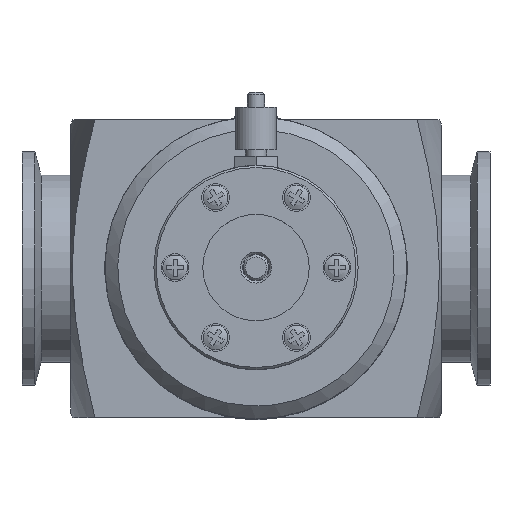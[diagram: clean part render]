
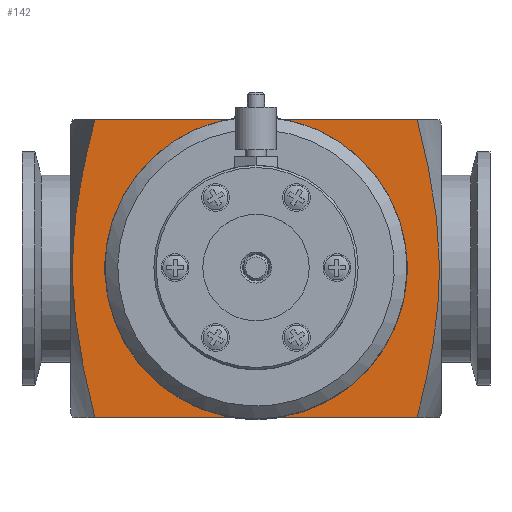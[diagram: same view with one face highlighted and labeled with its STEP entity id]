
A CAD part, top view. The second image highlights one B-rep face of the part: STEP entity #142.
In plain terms, the highlighted planar face has unit normal (0, 0, 1).
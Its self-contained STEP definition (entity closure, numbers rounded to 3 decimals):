
#142 = ADVANCED_FACE( '', ( #267, #268 ), #269, .T. );
#267 = FACE_BOUND( '', #446, .T. );
#268 = FACE_OUTER_BOUND( '', #447, .T. );
#269 = PLANE( '', #448 );
#446 = EDGE_LOOP( '', ( #748 ) );
#447 = EDGE_LOOP( '', ( #749, #750, #751, #752 ) );
#448 = AXIS2_PLACEMENT_3D( '', #753, #754, #755 );
#748 = ORIENTED_EDGE( '', *, *, #1330, .F. );
#749 = ORIENTED_EDGE( '', *, *, #1327, .F. );
#750 = ORIENTED_EDGE( '', *, *, #1331, .T. );
#751 = ORIENTED_EDGE( '', *, *, #1332, .T. );
#752 = ORIENTED_EDGE( '', *, *, #1333, .T. );
#753 = CARTESIAN_POINT( '', ( 43.5, -35., 35. ) );
#754 = DIRECTION( '', ( 0., 0., 1. ) );
#755 = DIRECTION( '', ( 1., 0., 0. ) );
#1327 = EDGE_CURVE( '', #1789, #1791, #1792, .T. );
#1330 = EDGE_CURVE( '', #1795, #1795, #1796, .T. );
#1331 = EDGE_CURVE( '', #1789, #1797, #1798, .T. );
#1332 = EDGE_CURVE( '', #1797, #1799, #1800, .T. );
#1333 = EDGE_CURVE( '', #1799, #1791, #1801, .F. );
#1789 = VERTEX_POINT( '', #2661 );
#1791 = VERTEX_POINT( '', #2678 );
#1792 = LINE( '', #2679, #2680 );
#1795 = VERTEX_POINT( '', #2698 );
#1796 = CIRCLE( '', #2699, 32.832 );
#1797 = VERTEX_POINT( '', #2700 );
#1798 = B_SPLINE_CURVE_WITH_KNOTS( '', 3, ( #2701, #2702, #2703, #2704, #2705, #2706, #2707, #2708, #2709, #2710, #2711, #2712, #2713, #2714, #2715, #2716, #2717, #2718, #2719, #2720 ), .UNSPECIFIED., .F., .F., ( 4, 2, 2, 2, 2, 2, 2, 2, 2, 4 ), ( 0.036, 0.045, 0.054, 0.063, 0.072, 0.081, 0.085, 0.09, 0.099, 0.108 ), .UNSPECIFIED. );
#1799 = VERTEX_POINT( '', #2721 );
#1800 = LINE( '', #2722, #2723 );
#1801 = B_SPLINE_CURVE_WITH_KNOTS( '', 3, ( #2724, #2725, #2726, #2727, #2728, #2729, #2730, #2731, #2732, #2733, #2734, #2735, #2736, #2737, #2738, #2739, #2740, #2741, #2742, #2743 ), .UNSPECIFIED., .F., .F., ( 4, 2, 2, 2, 2, 2, 2, 2, 2, 4 ), ( 0.036, 0.045, 0.054, 0.063, 0.072, 0.081, 0.085, 0.09, 0.099, 0.108 ), .UNSPECIFIED. );
#2661 = CARTESIAN_POINT( '', ( 37.859, -35., 35. ) );
#2678 = CARTESIAN_POINT( '', ( -37.859, -35., 35. ) );
#2679 = CARTESIAN_POINT( '', ( 43.5, -35., 35. ) );
#2680 = VECTOR( '', #3113, 1000. );
#2698 = CARTESIAN_POINT( '', ( 32.832, 0., 35. ) );
#2699 = AXIS2_PLACEMENT_3D( '', #3114, #3115, #3116 );
#2700 = CARTESIAN_POINT( '', ( 37.859, 35., 35. ) );
#2701 = CARTESIAN_POINT( '', ( 37.859, -35., 35. ) );
#2702 = CARTESIAN_POINT( '', ( 38.6, -32.124, 35. ) );
#2703 = CARTESIAN_POINT( '', ( 39.298, -29.235, 35. ) );
#2704 = CARTESIAN_POINT( '', ( 40.57, -23.423, 35. ) );
#2705 = CARTESIAN_POINT( '', ( 41.14, -20.513, 35. ) );
#2706 = CARTESIAN_POINT( '', ( 42.092, -14.688, 35. ) );
#2707 = CARTESIAN_POINT( '', ( 42.474, -11.771, 35. ) );
#2708 = CARTESIAN_POINT( '', ( 42.996, -5.928, 35. ) );
#2709 = CARTESIAN_POINT( '', ( 43.134, -3.002, 35. ) );
#2710 = CARTESIAN_POINT( '', ( 43.138, 2.862, 35. ) );
#2711 = CARTESIAN_POINT( '', ( 43.004, 5.799, 35. ) );
#2712 = CARTESIAN_POINT( '', ( 42.615, 10.213, 35. ) );
#2713 = CARTESIAN_POINT( '', ( 42.454, 11.685, 35. ) );
#2714 = CARTESIAN_POINT( '', ( 42.077, 14.632, 35. ) );
#2715 = CARTESIAN_POINT( '', ( 41.86, 16.108, 35. ) );
#2716 = CARTESIAN_POINT( '', ( 41.137, 20.53, 35. ) );
#2717 = CARTESIAN_POINT( '', ( 40.564, 23.45, 35. ) );
#2718 = CARTESIAN_POINT( '', ( 39.294, 29.251, 35. ) );
#2719 = CARTESIAN_POINT( '', ( 38.598, 32.132, 35. ) );
#2720 = CARTESIAN_POINT( '', ( 37.859, 35., 35. ) );
#2721 = CARTESIAN_POINT( '', ( -37.859, 35., 35. ) );
#2722 = CARTESIAN_POINT( '', ( 43.5, 35., 35. ) );
#2723 = VECTOR( '', #3117, 1000. );
#2724 = CARTESIAN_POINT( '', ( -37.859, -35., 35. ) );
#2725 = CARTESIAN_POINT( '', ( -38.6, -32.124, 35. ) );
#2726 = CARTESIAN_POINT( '', ( -39.298, -29.235, 35. ) );
#2727 = CARTESIAN_POINT( '', ( -40.57, -23.423, 35. ) );
#2728 = CARTESIAN_POINT( '', ( -41.14, -20.513, 35. ) );
#2729 = CARTESIAN_POINT( '', ( -42.092, -14.688, 35. ) );
#2730 = CARTESIAN_POINT( '', ( -42.474, -11.771, 35. ) );
#2731 = CARTESIAN_POINT( '', ( -42.996, -5.928, 35. ) );
#2732 = CARTESIAN_POINT( '', ( -43.134, -3.002, 35. ) );
#2733 = CARTESIAN_POINT( '', ( -43.138, 2.862, 35. ) );
#2734 = CARTESIAN_POINT( '', ( -43.004, 5.799, 35. ) );
#2735 = CARTESIAN_POINT( '', ( -42.615, 10.213, 35. ) );
#2736 = CARTESIAN_POINT( '', ( -42.454, 11.685, 35. ) );
#2737 = CARTESIAN_POINT( '', ( -42.077, 14.632, 35. ) );
#2738 = CARTESIAN_POINT( '', ( -41.86, 16.108, 35. ) );
#2739 = CARTESIAN_POINT( '', ( -41.137, 20.53, 35. ) );
#2740 = CARTESIAN_POINT( '', ( -40.564, 23.45, 35. ) );
#2741 = CARTESIAN_POINT( '', ( -39.294, 29.251, 35. ) );
#2742 = CARTESIAN_POINT( '', ( -38.598, 32.132, 35. ) );
#2743 = CARTESIAN_POINT( '', ( -37.859, 35., 35. ) );
#3113 = DIRECTION( '', ( -1., 0., 0. ) );
#3114 = CARTESIAN_POINT( '', ( 0., 0., 35. ) );
#3115 = DIRECTION( '', ( 0., 0., 1. ) );
#3116 = DIRECTION( '', ( 1., 0., 0. ) );
#3117 = DIRECTION( '', ( -1., 0., 0. ) );
